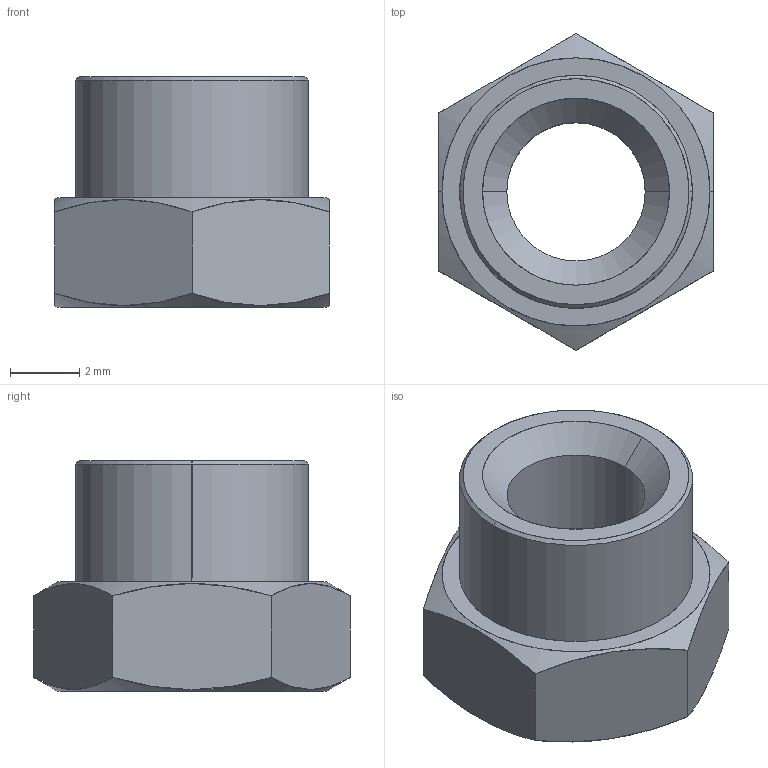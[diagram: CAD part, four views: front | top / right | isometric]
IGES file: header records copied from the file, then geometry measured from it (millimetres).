
Start section: SolidWorks IGES file using analytic representation for surfaces
Global section: file name: C:\Users\liam_\OneDrive\Desktop\Work\Mat Davis Pending 20181125\automotion\P SERIES\P0827.ZP_v2\P0827.ZP_v2_20181231_IGES\P0827.040-10G-ZP.igs; native system: SolidWorks 2017; preprocessor: SolidWorks 2017; author: liam_; date: 181231.110506; units: millimetre
Bounding box: 7.92 x 9.15 x 6.67 mm (x, y, z)
Surface area: 310.8 mm2 (no closed solid volume)
Topology: 0 solids, 0 shells, 23 faces, 376 edges, 376 vertices
Faces by surface type: revolution 14, bspline 9
